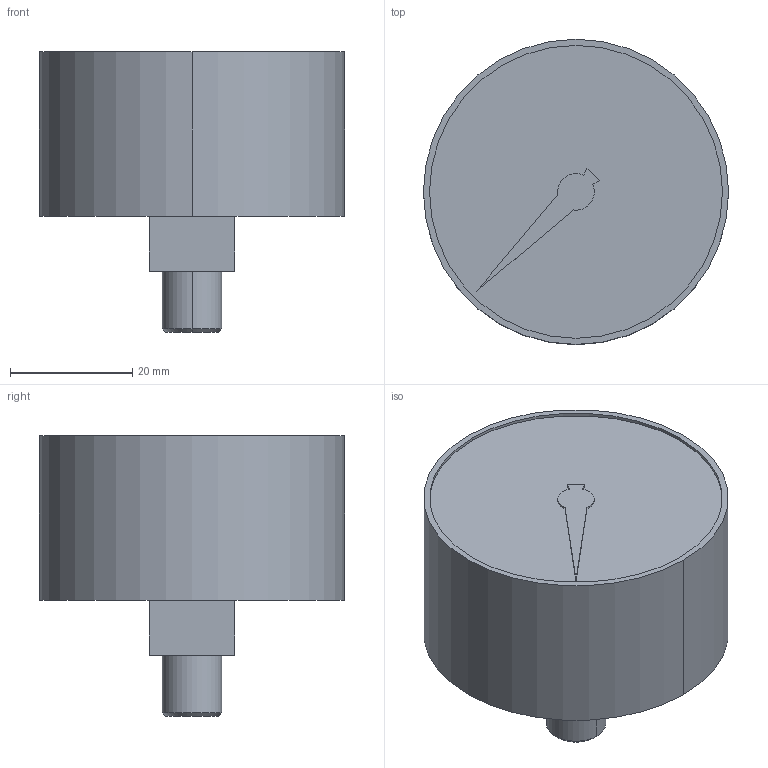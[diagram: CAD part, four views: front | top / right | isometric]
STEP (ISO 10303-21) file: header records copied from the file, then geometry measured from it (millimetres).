
FILE_DESCRIPTION((''),'2;1');
FILE_NAME('3530190150','2020-10-06T19:51:29',('GIO1HC'),(''),'CREO PARAMETRIC BY PTC INC, 2018190','CREO PARAMETRIC BY PTC INC, 2018190','');
FILE_SCHEMA(('AUTOMOTIVE_DESIGN { 1 0 10303 214 1 1 1 1 }'));
Length unit declared in the file: millimetre
Products named in the file (1): 3530190150
Bounding box: 50 x 50 x 46 mm (x, y, z)
Volume: 54628.6 mm3; surface area: 9057.2 mm2
Topology: 1 solids, 1 shells, 25 faces, 55 edges, 36 vertices
Faces by surface type: plane 15, cylinder 8, cone 2
Entity records: 869 total; most frequent: DIRECTION 141, CARTESIAN_POINT 127, ORIENTED_EDGE 110, EDGE_CURVE 55, AXIS2_PLACEMENT_3D 52, VECTOR 37, LINE 37, VERTEX_POINT 36
